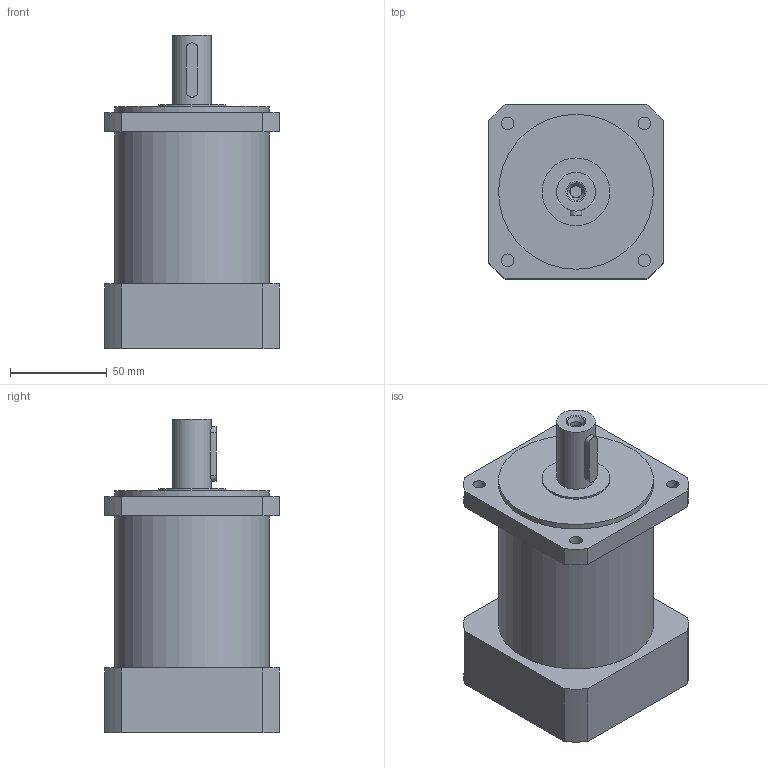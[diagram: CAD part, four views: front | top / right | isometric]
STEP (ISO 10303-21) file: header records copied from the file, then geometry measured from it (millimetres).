
FILE_DESCRIPTION((' Parasolid data model '),'2;1');
FILE_NAME('GSSL','1999-11-09T08:34:19+00:00',(' GSSL '),(' GSSL Pune '),'','GSSL Pune','Author');
FILE_SCHEMA(('CONFIG_CONTROL_DESIGN'));
Length unit declared in the file: millimetre
Bounding box: 90 x 90 x 162 mm (x, y, z)
Volume: 740329.2 mm3; surface area: 64091.7 mm2
Topology: 1 solids, 1 shells, 54 faces, 122 edges, 82 vertices
Faces by surface type: cylinder 26, plane 25, cone 3
Full cylindrical faces by diameter (mm): 6 x5, 6.38 x1, 6.5 x4, 19 x1, 20 x1, 35 x1, 80 x3
Entity records: 1515 total; most frequent: CARTESIAN_POINT 366, DIRECTION 208, ORIENTED_EDGE 188, EDGE_LOOP 94, EDGE_CURVE 94, AXIS2_PLACEMENT_3D 84, VERTEX_POINT 74, ADVANCED_FACE 54
